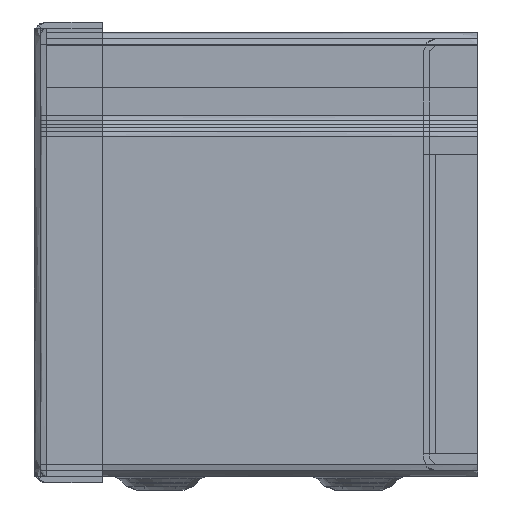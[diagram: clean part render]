
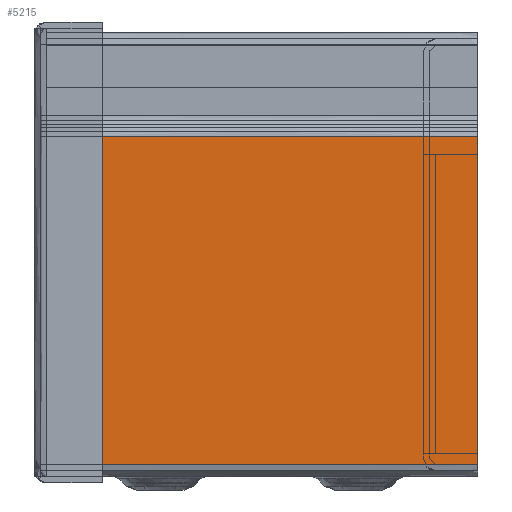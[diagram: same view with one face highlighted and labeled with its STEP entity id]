
A CAD part, left-side view. The second image highlights one B-rep face of the part: STEP entity #5215.
In plain terms, the highlighted free-form (B-spline) face has degree [1, 1] with [2, 2] control points.
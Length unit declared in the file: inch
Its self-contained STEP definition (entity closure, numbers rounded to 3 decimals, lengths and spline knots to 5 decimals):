
#5143=CARTESIAN_POINT('V66',(-0.055,0.06,
   0.));
#5144=VERTEX_POINT('V66',#5143);
#5158=CARTESIAN_POINT('V67',(-0.055,0.06,
   -4.0));
#5159=VERTEX_POINT('V67',#5158);
#5160=CARTESIAN_POINT('E90',(-0.055,0.06,
   0.));
#5161=CARTESIAN_POINT('E90',(-0.055,0.06,
   -4.0));
#5162=QUASI_UNIFORM_CURVE('E90',1,(#5160,#5161),.POLYLINE_FORM.,.F.,
   .U.);
#5163=EDGE_CURVE('E90',#5144,#5159,#5162,.T.);
#5188=CARTESIAN_POINT('F41',(-0.055,3.05515,
   0.));
#5189=CARTESIAN_POINT('F41',(-0.055,3.05515,
   -4.0));
#5190=CARTESIAN_POINT('F41',(-0.055,0.06,
   0.));
#5191=CARTESIAN_POINT('F41',(-0.055,0.06,
   -4.0));
#5192=B_SPLINE_SURFACE_WITH_KNOTS('F41',1,1,((#5188,#5190),(#5189,
   #5191)),.PLANE_SURF.,.F.,.F.,.U.,(2,2),(2,2),(
   0.00039,1.33484),(0.00039,
   0.99961),.UNSPECIFIED.);
#5193=CARTESIAN_POINT('V64',(-0.055,3.05515,
   -4.0));
#5194=VERTEX_POINT('V64',#5193);
#5195=CARTESIAN_POINT('E107',(-0.055,3.05515,
   -4.0));
#5196=CARTESIAN_POINT('E107',(-0.055,0.06,
   -4.0));
#5197=QUASI_UNIFORM_CURVE('E107',1,(#5195,#5196),.POLYLINE_FORM.,.F.,
   .U.);
#5198=EDGE_CURVE('E107',#5194,#5159,#5197,.T.);
#5199=ORIENTED_EDGE('E107',*,*,#5198,.T.);
#5200=ORIENTED_EDGE('E90',*,*,#5163,.F.);
#5201=CARTESIAN_POINT('V61',(-0.055,3.05515,
   0.));
#5202=VERTEX_POINT('V61',#5201);
#5203=CARTESIAN_POINT('E108',(-0.055,0.06,
   0.0));
#5204=CARTESIAN_POINT('E108',(-0.055,3.05515,
   0.0));
#5205=QUASI_UNIFORM_CURVE('E108',1,(#5203,#5204),.POLYLINE_FORM.,.F.,
   .U.);
#5206=EDGE_CURVE('E108',#5144,#5202,#5205,.T.);
#5207=ORIENTED_EDGE('E108',*,*,#5206,.T.);
#5208=CARTESIAN_POINT('E88',(-0.055,3.05515,
   -4.0));
#5209=CARTESIAN_POINT('E88',(-0.055,3.05515,
   0.));
#5210=QUASI_UNIFORM_CURVE('E88',1,(#5208,#5209),.POLYLINE_FORM.,.F.,
   .U.);
#5211=EDGE_CURVE('E88',#5194,#5202,#5210,.T.);
#5212=ORIENTED_EDGE('E88',*,*,#5211,.F.);
#5213=EDGE_LOOP('F41',(#5199,#5200,#5207,#5212));
#5214=FACE_OUTER_BOUND('F41',#5213,.T.);
#5215=ADVANCED_FACE('F41',(#5214),#5192,.T.);
